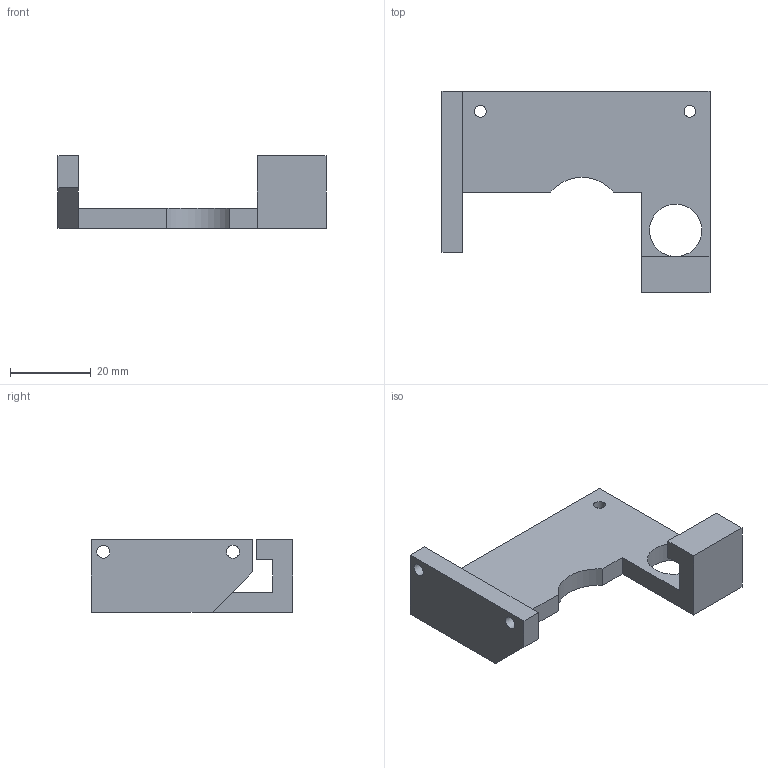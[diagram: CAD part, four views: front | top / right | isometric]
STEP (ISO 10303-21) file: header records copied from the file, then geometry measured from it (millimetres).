
FILE_DESCRIPTION(('FreeCAD Model'),'2;1');
FILE_NAME( '/home/ricardo/FreeCAD/myPrinter/FreeCAD/sensor_and_fans_mount.step', '2015-01-03T07:05:19',('Author'),(''), 'Open CASCADE STEP processor 6.7','FreeCAD','Unknown');
FILE_SCHEMA(('AUTOMOTIVE_DESIGN_CC2 { 1 2 10303 214 -1 1 5 4 }'));
Length unit declared in the file: millimetre
Products named in the file (1): Chamfer
Bounding box: 66.5 x 50 x 18 mm (x, y, z)
Volume: 13598.9 mm3; surface area: 7432.3 mm2
Topology: 1 solids, 1 shells, 23 faces, 71 edges, 50 vertices
Faces by surface type: plane 17, cylinder 6
Full cylindrical faces by diameter (mm): 2.9 x2, 3.2 x2, 13 x1
Entity records: 1801 total; most frequent: CARTESIAN_POINT 359, DIRECTION 261, LINE 189, VECTOR 189, ORIENTED_EDGE 142, PCURVE 142, DEFINITIONAL_REPRESENTATION 142, EDGE_CURVE 71
